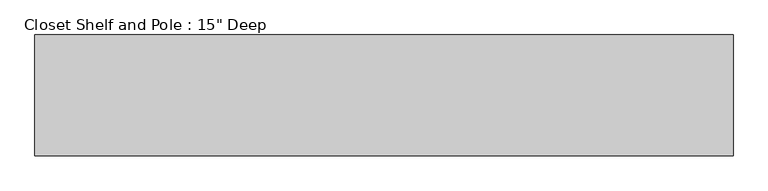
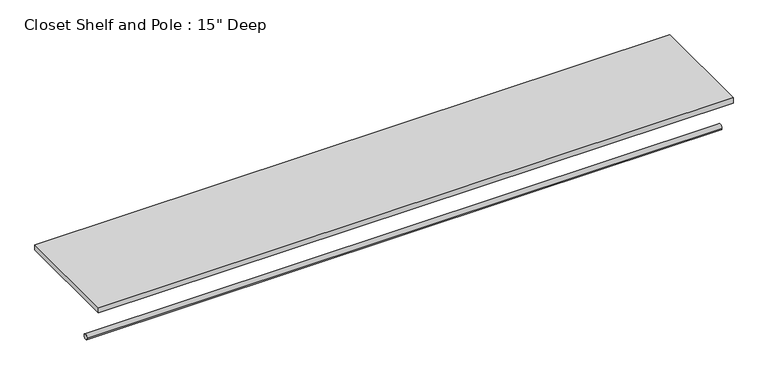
"""IFC4 building model written with IfcOpenShell, lengths in millimetres: proxy geometry."""

from ifc_helpers import new_model, si_unit, point, frame, frame_2d, origin, place, context, project, spatial, polyline, circle_curve, trimmed, segment, composite_curve, outline, extrude, source, transform, mapped, element, save


def proxy_39d06be3(model_context):
    return source(origin(), model_context, "Body", "SweptSolid", [
        extrude(outline(polyline([(2200.0, 0.0), (2200.0, -381.0), (0.0, -381.0), (0.0, 0.0), (2200.0, 0.0)])), frame((0.0, 0.0, 1809.75), z_axis=(0.0, 0.0, 1.0), x_axis=(1.0, 0.0, 0.0)), (0.0, 0.0, 1.0), 19.05),
        extrude(outline(composite_curve([segment(trimmed(circle_curve(frame_2d((-304.8, 1676.4)), 9.525), [point((-314.325, 1676.4))], [point((-295.275, 1676.4))], False, "CARTESIAN"), True, "CONTINUOUS"), segment(trimmed(circle_curve(frame_2d((-304.8, 1676.4)), 9.525), [point((-295.275, 1676.4))], [point((-314.325, 1676.4))], False, "CARTESIAN"), True, "CONTINUOUS")], self_intersect=False)), frame((0.0, 0.0, 0.0), z_axis=(1.0, 0.0, 0.0), x_axis=(0.0, 1.0, 0.0)), (0.0, 0.0, 1.0), 2200.0),
    ])


if __name__ == "__main__":
    model = new_model("IFC4")
    model_context = context("Model", 3, world=origin())
    ifc_project = project(units=[si_unit("LENGTHUNIT", "METRE", prefix="MILLI")], contexts=[model_context])
    site = spatial("IfcSite", under=ifc_project)
    building = spatial("IfcBuilding", under=site)
    placement = place(None, origin())
    proxy_shape = proxy_39d06be3(model_context)
    element("IfcBuildingElementProxy", 1, Name="Closet Shelf and Pole : 15\" Deep", ObjectType="Closet Shelf and Pole : 15\" Deep", at=placement, inside=building, context=model_context, shape_type="MappedRepresentation", body=[
        mapped(proxy_shape, transform((0.0, 0.0, 0.0), x_axis=(1.0, 0.0, 0.0), y_axis=(0.0, 1.0, 0.0), z_axis=(0.0, 0.0, 1.0))),
    ])
    save(model, "model.ifc")
